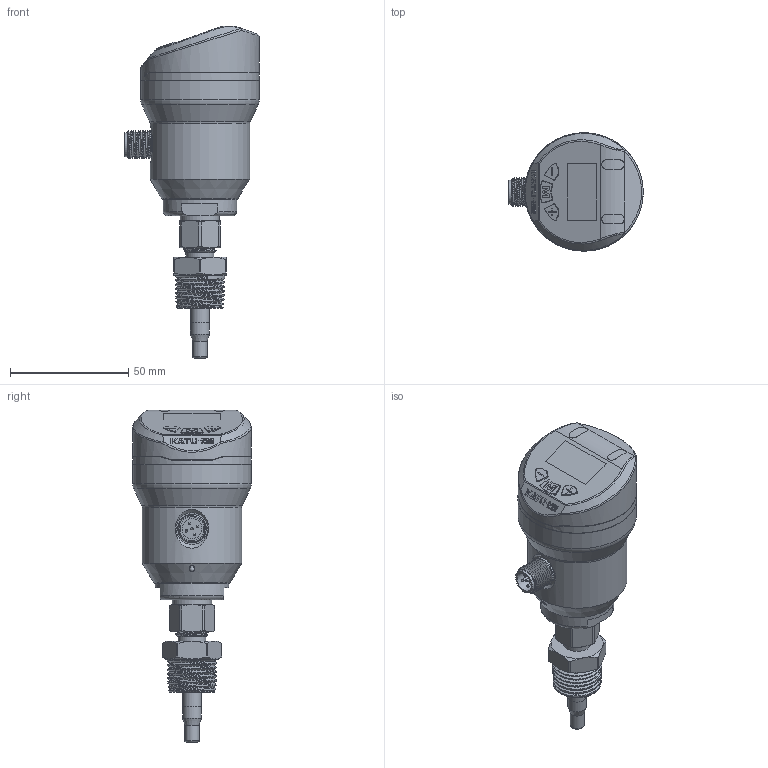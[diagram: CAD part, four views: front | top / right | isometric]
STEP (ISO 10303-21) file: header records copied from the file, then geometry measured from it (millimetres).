
FILE_DESCRIPTION( (''), '2;1');
FILE_NAME( 'QEKE_GL60_R1-2_compression-fitting.step', '2026-06-25T11:26:28+08:00', (''), (''), '', '', '');
FILE_SCHEMA (('AP203_CONFIGURATION_CONTROLLED_3D_DESIGN_OF_MECHANICAL_PARTS_AND_ASSEMBLIES_MIM_LF { 1 0 10303 403 2 1 2}'));
Length unit declared in the file: millimetre
Products named in the file (1): QEKE GL60_R1-2_compression-fitting
Bounding box: 56.7 x 50 x 140.09 mm (x, y, z)
Volume: 98704.1 mm3; surface area: 40140.8 mm2
Topology: 12 solids, 12 shells, 639 faces, 1594 edges, 1027 vertices
Faces by surface type: plane 331, cylinder 152, cone 63, bspline 51, torus 31, sphere 11
Full cylindrical faces by diameter (mm): 1 x10, 2.5 x1, 2.7 x5, 3.1 x1, 3.5 x2, 6 x2, 6.5 x1, 7 x1, 8 x2, 8.2 x1, 8.3 x1, 8.4 x1, 9.7 x1, 9.8 x1, 10.1 x1, 11 x1, 11.6 x1, 11.8 x1, 12 x1, 16.5 x1, 23 x3, 26.1 x5, 31 x1, 42 x1, 48 x1, 50 x3
Entity records: 26136 total; most frequent: CARTESIAN_POINT 10938, ORIENTED_EDGE 2908, DIRECTION 2847, EDGE_CURVE 1454, AXIS2_PLACEMENT_3D 1040, VERTEX_POINT 976, EDGE_LOOP 792, LINE 767
